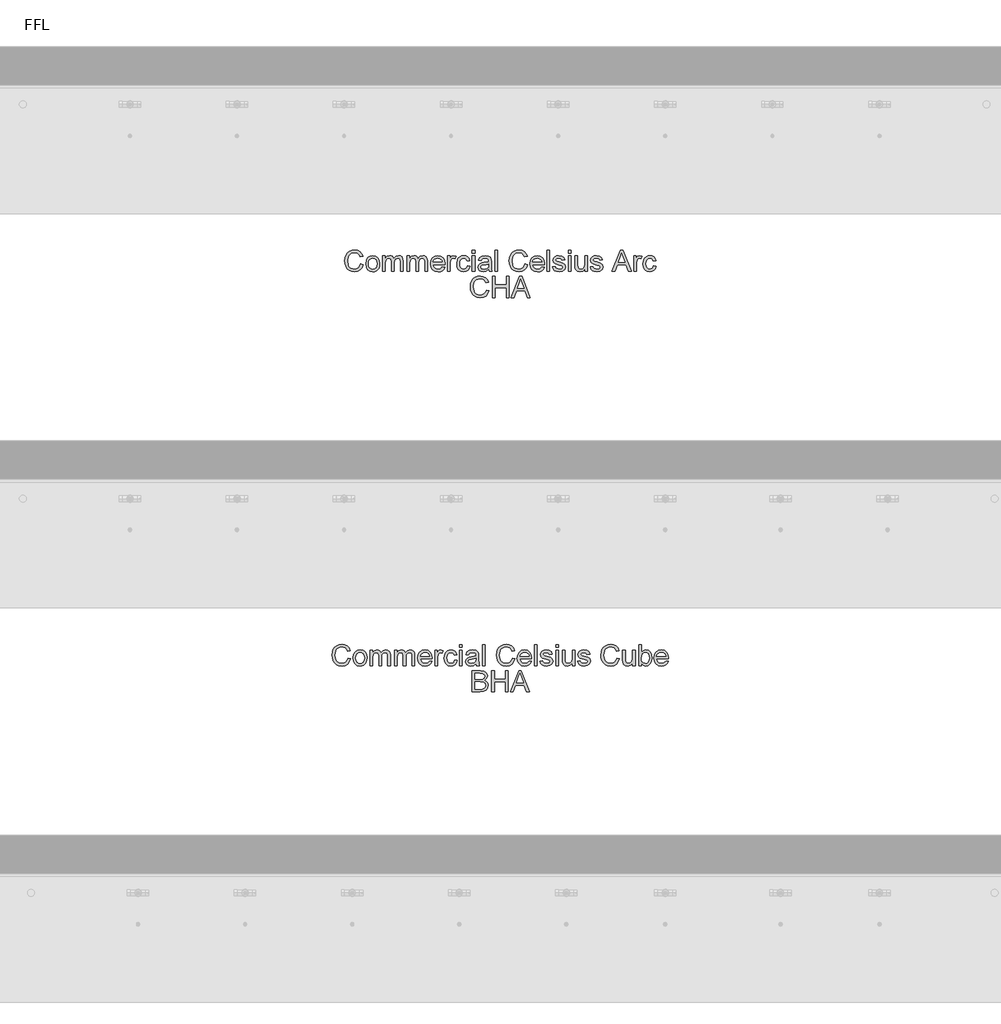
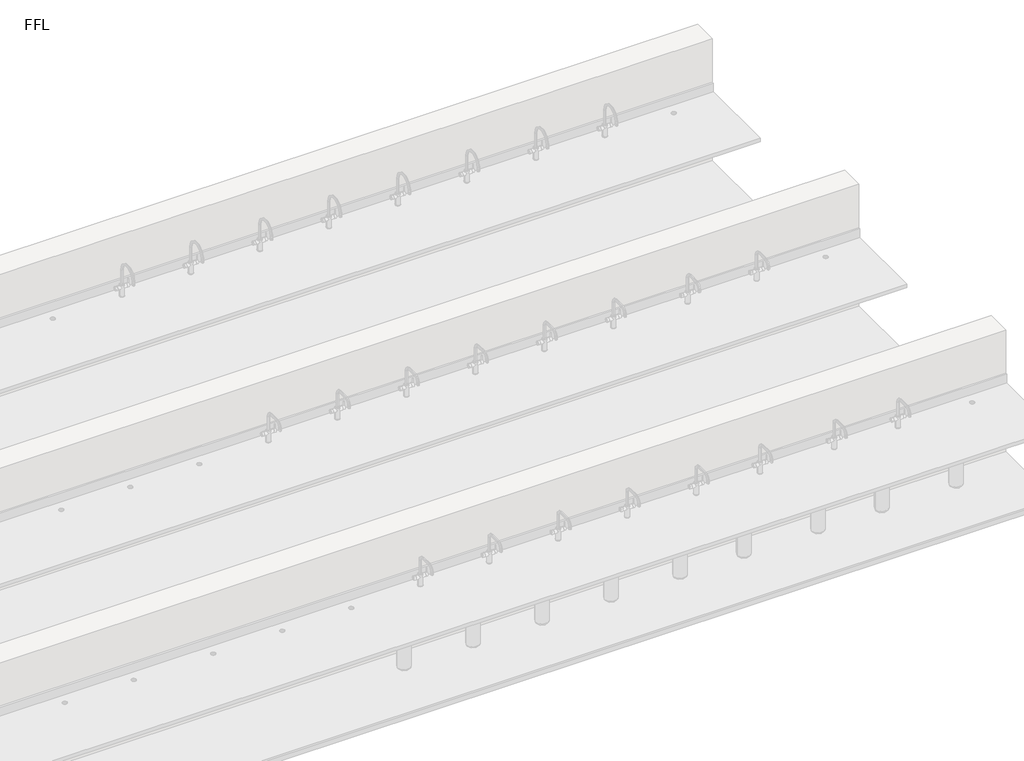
# One storey, part 9 of 10: 2 proxies.
"""IFC4 building model written with IfcOpenShell, lengths in millimetres."""

import ifcopenshell
import ifcopenshell.guid

model = None  # the IFC model being written
_history = None  # IfcOwnerHistory: only IFC2X3 demands one
_inside = {}  # id of a spatial element -> (the spatial element, [elements in it])
_under = {}  # id of a project, library or spatial element -> (it, [spatial elements below it])
_declared = {}  # id of a project -> (the project, [libraries it declares])
_typed = {}  # id of a type object -> (the type object, [elements of that type])
_made_of = {}  # id of a material, layer set ... -> (it, [elements and type objects made of it])


def new_model(schema):
    """Start an empty IFC model of exactly this schema.

    Asked for "IFC4X3", IfcOpenShell would pick the latest addendum, in which some entities
    have other attributes; the version numbers below select the first issue.
    IFC2X3 requires an IfcOwnerHistory on every rooted entity: one is made here for all.
    """
    global model, _history
    if schema == "IFC4X3":
        model = ifcopenshell.file(schema_version=(4, 3, 0, 0))
    else:
        model = ifcopenshell.file(schema=schema)
    _inside.clear()
    _under.clear()
    _declared.clear()
    _typed.clear()
    _made_of.clear()
    _history = None
    if model.schema == "IFC2X3":
        org = make("IfcOrganization", Name="unknown")
        user = make(
            "IfcPersonAndOrganization",
            ThePerson=make("IfcPerson", FamilyName="unknown"),
            TheOrganization=org,
        )
        app = make(
            "IfcApplication",
            ApplicationDeveloper=org,
            Version="unknown",
            ApplicationFullName="unknown",
            ApplicationIdentifier="unknown",
        )
        _history = make(
            "IfcOwnerHistory",
            OwningUser=user,
            OwningApplication=app,
            ChangeAction="ADDED",
            CreationDate=0,
        )
    return model


def make(cls, **values):
    """One entity of the class cls with the attributes given. An attribute that is None is left unset."""
    return model.create_entity(
        cls, **{name: value for name, value in values.items() if value is not None}
    )


def rooted(cls, **values):
    """An entity with a GlobalId (a new one), such as an element, a storey or a relation."""
    return make(cls, GlobalId=ifcopenshell.guid.new(), OwnerHistory=_history, **values)


def si_unit(unit_type, name, prefix=None):
    """IfcSIUnit, for example si_unit("LENGTHUNIT", "METRE", prefix="MILLI")."""
    return make("IfcSIUnit", UnitType=unit_type, Prefix=prefix, Name=name)


def assignment(units):
    """IfcUnitAssignment: the units of a project."""
    return None if units is None else make("IfcUnitAssignment", Units=units)


def point(xyz):
    """IfcCartesianPoint."""
    return None if xyz is None else make("IfcCartesianPoint", Coordinates=xyz)


def direction(xyz):
    """IfcDirection."""
    return None if xyz is None else make("IfcDirection", DirectionRatios=xyz)


def frame(location, z_axis=None, x_axis=None):
    """IfcAxis2Placement3D, a coordinate frame: its origin and axes. An axis left out is left unset."""
    return make(
        "IfcAxis2Placement3D",
        Location=point(location),
        Axis=direction(z_axis),
        RefDirection=direction(x_axis),
    )


def origin():
    """The frame at (0, 0, 0) with its axes left unset."""
    return frame((0.0, 0.0, 0.0))


def origin_with_axes():
    """The frame at (0, 0, 0) with the z axis (0, 0, 1) and the x axis (1, 0, 0) written out."""
    return frame((0.0, 0.0, 0.0), z_axis=(0.0, 0.0, 1.0), x_axis=(1.0, 0.0, 0.0))


def place(relative_to, where):
    """IfcLocalPlacement: puts the frame where relative to a parent placement (None: the world)."""
    return make(
        "IfcLocalPlacement", PlacementRelTo=relative_to, RelativePlacement=where
    )


def context(
    kind, dimensions, precision=None, world=None, true_north=None, identifier=None
):
    """IfcGeometricRepresentationContext, for example the 3D "Model" context."""
    return make(
        "IfcGeometricRepresentationContext",
        ContextIdentifier=identifier,
        ContextType=kind,
        CoordinateSpaceDimension=dimensions,
        Precision=precision,
        WorldCoordinateSystem=world,
        TrueNorth=true_north,
    )


def project(units=None, contexts=None):
    """IfcProject with its units and contexts."""
    return rooted(
        "IfcProject",
        Name="project",
        RepresentationContexts=contexts,
        UnitsInContext=assignment(units),
    )


def spatial(cls, under=None, at=None, **own):
    """A site, building, storey or space (cls), placed at a placement, below another one or the project."""
    s = rooted(cls, ObjectPlacement=at, **own)
    if under is not None:
        _under.setdefault(under.id(), (under, []))[1].append(s)
    return s


def polyline(points):
    """IfcPolyline through the points."""
    return make("IfcPolyline", Points=[point(p) for p in points])


def outline(outer, holes=None, kind="AREA"):
    """IfcArbitraryClosedProfileDef: a profile drawn as a closed curve; with holes, ...WithVoids."""
    if holes is None:
        return make("IfcArbitraryClosedProfileDef", ProfileType=kind, OuterCurve=outer)
    return make(
        "IfcArbitraryProfileDefWithVoids",
        ProfileType=kind,
        OuterCurve=outer,
        InnerCurves=holes,
    )


def extrude(swept, where, along, depth):
    """IfcExtrudedAreaSolid: the profile swept, set in the frame where, extruded along a direction by depth."""
    return make(
        "IfcExtrudedAreaSolid",
        SweptArea=swept,
        Position=where,
        ExtrudedDirection=direction(along),
        Depth=depth,
    )


def shape(context_of_items, identifier, shape_type, items):
    """IfcShapeRepresentation: the items that make up one representation, for example the "Body"."""
    return make(
        "IfcShapeRepresentation",
        ContextOfItems=context_of_items,
        RepresentationIdentifier=identifier,
        RepresentationType=shape_type,
        Items=items,
    )


def made_of(thing, what):
    """Note that an element or type object is made of a material, layer set ...; save() writes the relation."""
    if what is not None:
        _made_of.setdefault(what.id(), (what, []))[1].append(thing)
    return thing


def element(
    cls,
    number,
    at=None,
    inside=None,
    cuts=None,
    type_object=None,
    material=None,
    context=None,
    identifier="Body",
    shape_type=None,
    held_by="IfcProductDefinitionShape",
    body=None,
    shapes=None,
    **own,
):
    """One element of the class cls, such as IfcWall. Its Tag is "e" and its number.

    at: its placement. inside: the storey or other place that contains it. cuts: it is an
    opening in that element (IfcRelVoidsElement). A single representation is given by context,
    identifier, shape_type and body (its items); several are given by shapes. held_by: the class
    of the entity that holds the representations. save() writes the other relations.
    """
    e = rooted(cls, Tag="e%d" % number, ObjectPlacement=at, **own)
    if body is not None:
        shapes = [shape(context, identifier, shape_type, body)]
    if shapes is not None:
        e.Representation = make(held_by, Representations=shapes)
    if inside is not None:
        _inside.setdefault(inside.id(), (inside, []))[1].append(e)
    if cuts is not None:
        rooted(
            "IfcRelVoidsElement", RelatingBuildingElement=cuts, RelatedOpeningElement=e
        )
    if type_object is not None:
        _typed.setdefault(type_object.id(), (type_object, []))[1].append(e)
    return made_of(e, material)


def aggregate(whole, parts):
    """IfcRelAggregates: a whole, such as a stair, and the parts it consists of."""
    return rooted("IfcRelAggregates", RelatingObject=whole, RelatedObjects=parts)


def save(model, path):
    """Write the relations noted so far, then the file.

    IfcRelAggregates (storeys below a building ...), IfcRelContainedInSpatialStructure (elements
    in a storey), IfcRelDefinesByType, IfcRelAssociatesMaterial and IfcRelDeclares: one each for
    every whole, place, type object, material and project.
    """
    for whole, parts in _under.values():
        aggregate(whole, parts)
    for where, things in _inside.values():
        rooted(
            "IfcRelContainedInSpatialStructure",
            RelatedElements=things,
            RelatingStructure=where,
        )
    for kind, things in _typed.values():
        rooted("IfcRelDefinesByType", RelatedObjects=things, RelatingType=kind)
    for what, things in _made_of.values():
        rooted("IfcRelAssociatesMaterial", RelatedObjects=things, RelatingMaterial=what)
    for by, libraries in _declared.values():
        rooted("IfcRelDeclares", RelatingContext=by, RelatedDefinitions=libraries)
    model.write(path)


model = new_model("IFC4")

# Units and contexts
model_context = context("Model", 3, world=origin())
ifc_project = project(units=[si_unit("LENGTHUNIT", "METRE", prefix="MILLI")], contexts=[model_context])

# Site, building, storey
site = spatial("IfcSite", under=ifc_project)
building = spatial("IfcBuilding", under=site)
storey = spatial("IfcBuildingStorey", under=building, Name="FFL", Elevation=0.0)

# Proxies
placement = place(None, origin())
element("IfcBuildingElementProxy", 1, Name="150mm Arial", ObjectType="150mm Arial", at=placement, inside=storey, context=model_context, shape_type="SweptSolid", body=[
    extrude(outline(polyline([(6649.110861, 3836.3018309), (6667.5723994, 3831.5422155), (6659.0537696, 3810.0292948), (6645.6853802, 3794.3126482), (6628.1252841, 3784.698766), (6607.0315341, 3781.4941386), (6585.617772, 3783.9190184), (6568.6120629, 3791.1936578), (6555.5772071, 3803.065653), (6546.0760052, 3819.2826001), (6540.275224, 3838.3481049), (6538.3416302, 3858.7657732), (6540.5276278, 3880.3012299), (6547.0856206, 3898.8979847), (6557.6730605, 3913.9655929), (6571.9473994, 3924.9136097), (6588.876486, 3931.5797756), (6607.4281687, 3933.8018309), (6627.6700557, 3930.9262299), (6644.4053321, 3922.299427), (6657.1111615, 3908.4532732), (6665.2647071, 3889.9196193), (6646.8031687, 3885.5205809), (6640.4029283, 3898.9836217), (6631.6589379, 3908.2188982), (6620.4630244, 3913.5599439), (6606.7070148, 3915.3402924), (6590.8506446, 3913.3661338), (6577.8248033, 3907.4436578), (6567.9404884, 3898.1948597), (6561.5086975, 3886.2417347), (6556.8031687, 3858.8018309), (6562.3740821, 3826.9989463), (6569.4954764, 3815.1224439), (6579.7178321, 3806.6804367), (6591.9729403, 3801.6368669), (6605.1925917, 3799.955677), (6620.602748, 3802.2453405), (6633.4437937, 3809.1143309), (6643.1388057, 3820.4905328), (6649.110861, 3836.3018309)])), origin_with_axes(), (0.0, 0.0, 1.0), 5.0),
    extrude(outline(polyline([(6686.0339379, 3838.0326001), (6690.0273273, 3864.1834415), (6702.0074956, 3882.5638501), (6716.8091783, 3891.5692588), (6734.5315341, 3894.5710617), (6753.9260653, 3890.9157131), (6769.4173514, 3879.9496674), (6779.572099, 3862.5383092), (6782.9570148, 3839.5470232), (6781.4606206, 3820.8961818), (6776.9714379, 3806.6984655), (6769.6201759, 3796.0659535), (6759.5375437, 3788.1107251), (6747.5618826, 3783.1482852), (6734.5315341, 3781.4941386), (6714.9026278, 3785.1359655), (6699.4293706, 3796.0614463), (6689.3827961, 3813.8378886), (6686.0339379, 3838.0326001)]), holes=[polyline([(6704.4954764, 3838.0686578), (6706.6318946, 3821.3604246), (6713.0411494, 3809.456879), (6722.6865821, 3802.3309775), (6734.5315341, 3799.955677), (6746.3223994, 3802.3444992), (6755.9498033, 3809.5109655), (6762.3590581, 3821.5722636), (6764.4954764, 3838.6455809), (6762.3455365, 3854.8670352), (6755.8957167, 3866.6083213), (6746.2547913, 3873.7342227), (6734.5315341, 3876.1095232), (6722.6865821, 3873.7432371), (6713.0411494, 3866.644379), (6706.6318946, 3854.7678766), (6704.4954764, 3838.0686578)])]), origin_with_axes(), (0.0, 0.0, 1.0), 5.0),
    extrude(outline(polyline([(6803.7262456, 3783.8018309), (6803.7262456, 3892.2633693), (6822.1877841, 3892.2633693), (6822.1877841, 3874.4148117), (6834.8800917, 3889.0362059), (6852.9449956, 3894.5710617), (6863.2124235, 3893.1603044), (6871.4425917, 3888.9280328), (6881.610861, 3873.1167347), (6896.0159091, 3889.2074799), (6914.2070148, 3894.5710617), (6928.0847191, 3892.3399919), (6938.3476398, 3885.6467828), (6944.6892865, 3874.3111458), (6946.8031687, 3858.1527924), (6946.8031687, 3783.8018309), (6928.3416302, 3783.8018309), (6928.3416302, 3850.2201001), (6926.6288898, 3865.6347636), (6920.4269667, 3873.2249078), (6909.8800917, 3876.1095232), (6899.8785893, 3874.2615665), (6891.7250437, 3868.7176963), (6886.3028682, 3859.0993068), (6884.4954764, 3845.0277924), (6884.4954764, 3783.8018309), (6866.0339379, 3783.8018309), (6866.0339379, 3852.2753886), (6861.7611014, 3870.160004), (6856.1225797, 3874.6221434), (6847.7526879, 3876.1095232), (6834.0868225, 3872.143177), (6825.0002841, 3860.5326001), (6822.1877841, 3838.5013501), (6822.1877841, 3783.8018309), (6803.7262456, 3783.8018309)])), origin_with_axes(), (0.0, 0.0, 1.0), 5.0),
    extrude(outline(polyline([(6974.4954764, 3783.8018309), (6974.4954764, 3892.2633693), (6992.9570148, 3892.2633693), (6992.9570148, 3874.4148117), (7005.6493225, 3889.0362059), (7023.7142264, 3894.5710617), (7033.9816542, 3893.1603044), (7042.2118225, 3888.9280328), (7052.3800917, 3873.1167347), (7066.7851398, 3889.2074799), (7084.9762456, 3894.5710617), (7098.8539499, 3892.3399919), (7109.1168706, 3885.6467828), (7115.4585172, 3874.3111458), (7117.5723994, 3858.1527924), (7117.5723994, 3783.8018309), (7099.110861, 3783.8018309), (7099.110861, 3850.2201001), (7097.3981206, 3865.6347636), (7091.1961975, 3873.2249078), (7080.6493225, 3876.1095232), (7070.6478201, 3874.2615665), (7062.4942744, 3868.7176963), (7057.072099, 3859.0993068), (7055.2647071, 3845.0277924), (7055.2647071, 3783.8018309), (7036.8031687, 3783.8018309), (7036.8031687, 3852.2753886), (7032.5303321, 3870.160004), (7026.8918105, 3874.6221434), (7018.5219187, 3876.1095232), (7004.8560533, 3872.143177), (6995.7695148, 3860.5326001), (6992.9570148, 3838.5013501), (6992.9570148, 3783.8018309), (6974.4954764, 3783.8018309)])), origin_with_axes(), (0.0, 0.0, 1.0), 5.0),
    extrude(outline(polyline([(7221.2022071, 3816.1095232), (7239.3031687, 3813.8018309), (7232.7812336, 3800.1630088), (7222.3740821, 3789.9676963), (7208.3160893, 3783.612528), (7190.8416302, 3781.4941386), (7169.1799716, 3785.1494871), (7152.5123033, 3796.1155328), (7141.8842985, 3813.6801362), (7138.3416302, 3837.1311578), (7141.9203562, 3861.3709415), (7152.6565341, 3879.4989463), (7169.0988417, 3890.8030328), (7189.7959571, 3894.5710617), (7209.8485413, 3890.8120472), (7225.8716783, 3879.535004), (7236.3779884, 3861.4430568), (7239.8800917, 3837.2393309), (7239.7719187, 3832.2633693), (7156.8031687, 3832.2633693), (7159.9987816, 3818.4442588), (7167.4221591, 3808.285004), (7178.1358009, 3802.0380088), (7191.2022071, 3799.955677), (7209.3031687, 3803.8138501), (7221.2022071, 3816.1095232)]), holes=[polyline([(7156.8031687, 3850.7249078), (7221.4185533, 3850.7249078), (7218.9215581, 3860.4785136), (7214.0267264, 3867.455677), (7203.2635052, 3873.9460617), (7189.7238417, 3876.1095232), (7177.2794307, 3874.3832612), (7166.9894667, 3869.2044751), (7159.836522, 3861.1320592), (7156.8031687, 3850.7249078)])]), origin_with_axes(), (0.0, 0.0, 1.0), 5.0),
    extrude(outline(polyline([(7258.3416302, 3783.8018309), (7258.3416302, 3892.2633693), (7274.4954764, 3892.2633693), (7274.4954764, 3876.2176963), (7285.9618225, 3891.0013501), (7297.5002841, 3894.5710617), (7316.0339379, 3888.8739463), (7309.8680725, 3872.3234655), (7296.8873033, 3876.1095232), (7286.4486014, 3872.4676963), (7279.7959571, 3862.3715424), (7276.8031687, 3840.8090424), (7276.8031687, 3783.8018309), (7258.3416302, 3783.8018309)])), origin_with_axes(), (0.0, 0.0, 1.0), 5.0),
    extrude(outline(polyline([(7396.8031687, 3823.0326001), (7415.2647071, 3820.7249078), (7410.1174716, 3804.3051362), (7400.4449956, 3791.8967828), (7387.157736, 3784.0947996), (7371.1661494, 3781.4941386), (7351.5282288, 3785.1224439), (7336.1721591, 3796.0073597), (7326.2608009, 3813.6711217), (7322.9570148, 3837.6359655), (7328.6000437, 3868.3030328), (7335.7214379, 3879.8009294), (7345.7995629, 3888.0085617), (7357.8563538, 3892.9304367), (7370.9137456, 3894.5710617), (7386.5132047, 3892.3174559), (7398.9846591, 3885.5566386), (7407.931474, 3874.6491867), (7412.9570148, 3859.955677), (7394.4954764, 3857.6479847), (7385.9317744, 3871.4761097), (7371.0579764, 3876.1095232), (7359.1273874, 3873.8288742), (7349.657736, 3866.986927), (7343.478349, 3855.2140905), (7341.4185533, 3838.1407732), (7343.4332768, 3820.8375881), (7349.4774475, 3809.0241867), (7358.7758249, 3802.2228044), (7370.5531687, 3799.955677), (7380.1129643, 3801.3709415), (7387.9510052, 3805.6167347), (7393.6526278, 3812.8012299), (7396.8031687, 3823.0326001)])), origin_with_axes(), (0.0, 0.0, 1.0), 5.0),
    extrude(outline(polyline([(7431.4185533, 3913.0326001), (7431.4185533, 3931.4941386), (7449.8800917, 3931.4941386), (7449.8800917, 3913.0326001), (7431.4185533, 3913.0326001)])), origin_with_axes(), (0.0, 0.0, 1.0), 5.0),
    extrude(outline(polyline([(7431.4185533, 3783.8018309), (7431.4185533, 3892.2633693), (7449.8800917, 3892.2633693), (7449.8800917, 3783.8018309), (7431.4185533, 3783.8018309)])), origin_with_axes(), (0.0, 0.0, 1.0), 5.0),
    extrude(outline(polyline([(7546.8031687, 3797.6479847), (7528.9005244, 3785.1359655), (7509.1228802, 3781.4941386), (7493.6946951, 3783.6846434), (7482.313986, 3790.2561578), (7475.2962576, 3800.2351242), (7472.9570148, 3812.6479847), (7476.4906687, 3827.2513501), (7485.7755244, 3837.8523117), (7498.7022071, 3843.910004), (7514.6757648, 3846.6864463), (7546.6949956, 3853.0326001), (7546.8031687, 3857.143177), (7545.532135, 3865.3823597), (7541.7190341, 3870.7729847), (7533.1913898, 3874.7753886), (7521.3103802, 3876.1095232), (7502.6324956, 3872.5578405), (7493.7262456, 3859.955677), (7475.2647071, 3862.2633693), (7483.251486, 3880.2922155), (7499.3332167, 3890.8571193), (7523.6901879, 3894.5710617), (7546.063986, 3891.2898117), (7558.7022071, 3883.050629), (7564.3632648, 3870.5205809), (7565.2647071, 3854.3667347), (7565.2647071, 3831.3979847), (7566.2022071, 3799.3246674), (7569.8800917, 3783.8018309), (7551.4185533, 3783.8018309), (7546.8031687, 3797.6479847)]), holes=[polyline([(7546.8031687, 3834.5710617), (7517.0195148, 3828.910004), (7501.1361014, 3825.9172155), (7493.9425917, 3821.049427), (7491.4185533, 3813.9460617), (7496.9173514, 3803.9580809), (7513.0531687, 3799.955677), (7531.7310533, 3804.3727443), (7543.7743225, 3815.0638501), (7546.6949956, 3829.3426963), (7546.8031687, 3834.5710617)])]), origin_with_axes(), (0.0, 0.0, 1.0), 5.0),
    extrude(outline(polyline([(7590.6493225, 3783.8018309), (7590.6493225, 3931.4941386), (7609.110861, 3931.4941386), (7609.110861, 3783.8018309), (7590.6493225, 3783.8018309)])), origin_with_axes(), (0.0, 0.0, 1.0), 5.0),
    extrude(outline(polyline([(7800.6493225, 3836.3018309), (7819.110861, 3831.5422155), (7810.5922312, 3810.0292948), (7797.2238417, 3794.3126482), (7779.6637456, 3784.698766), (7758.5699956, 3781.4941386), (7737.1562336, 3783.9190184), (7720.1505244, 3791.1936578), (7707.1156687, 3803.065653), (7697.6144667, 3819.2826001), (7691.8136855, 3838.3481049), (7689.8800917, 3858.7657732), (7692.0660893, 3880.3012299), (7698.6240821, 3898.8979847), (7709.211522, 3913.9655929), (7723.485861, 3924.9136097), (7740.4149475, 3931.5797756), (7758.9666302, 3933.8018309), (7779.2085172, 3930.9262299), (7795.9437937, 3922.299427), (7808.649623, 3908.4532732), (7816.8031687, 3889.9196193), (7798.3416302, 3885.5205809), (7791.9413898, 3898.9836217), (7783.1973994, 3908.2188982), (7772.001486, 3913.5599439), (7758.2454764, 3915.3402924), (7742.3891062, 3913.3661338), (7729.3632648, 3907.4436578), (7719.4789499, 3898.1948597), (7713.0471591, 3886.2417347), (7708.3416302, 3858.8018309), (7713.9125437, 3826.9989463), (7721.0339379, 3815.1224439), (7731.2562937, 3806.6804367), (7743.5114018, 3801.6368669), (7756.7310533, 3799.955677), (7772.1412095, 3802.2453405), (7784.9822552, 3809.1143309), (7794.6772672, 3820.4905328), (7800.6493225, 3836.3018309)])), origin_with_axes(), (0.0, 0.0, 1.0), 5.0),
    extrude(outline(polyline([(7918.1252841, 3816.1095232), (7936.2262456, 3813.8018309), (7929.7043105, 3800.1630088), (7919.2971591, 3789.9676963), (7905.2391663, 3783.612528), (7887.7647071, 3781.4941386), (7866.1030485, 3785.1494871), (7849.4353802, 3796.1155328), (7838.8073754, 3813.6801362), (7835.2647071, 3837.1311578), (7838.8434331, 3861.3709415), (7849.579611, 3879.4989463), (7866.0219187, 3890.8030328), (7886.7190341, 3894.5710617), (7906.7716182, 3890.8120472), (7922.7947552, 3879.535004), (7933.3010653, 3861.4430568), (7936.8031687, 3837.2393309), (7936.6949956, 3832.2633693), (7853.7262456, 3832.2633693), (7856.9218586, 3818.4442588), (7864.345236, 3808.285004), (7875.0588778, 3802.0380088), (7888.1252841, 3799.955677), (7906.2262456, 3803.8138501), (7918.1252841, 3816.1095232)]), holes=[polyline([(7853.7262456, 3850.7249078), (7918.3416302, 3850.7249078), (7915.844635, 3860.4785136), (7910.9498033, 3867.455677), (7900.1865821, 3873.9460617), (7886.6469187, 3876.1095232), (7874.2025076, 3874.3832612), (7863.9125437, 3869.2044751), (7856.759599, 3861.1320592), (7853.7262456, 3850.7249078)])]), origin_with_axes(), (0.0, 0.0, 1.0), 5.0),
    extrude(outline(polyline([(7955.2647071, 3783.8018309), (7955.2647071, 3931.4941386), (7973.7262456, 3931.4941386), (7973.7262456, 3783.8018309), (7955.2647071, 3783.8018309)])), origin_with_axes(), (0.0, 0.0, 1.0), 5.0),
    extrude(outline(polyline([(7994.4954764, 3816.1095232), (8012.9570148, 3818.4172155), (8015.8686735, 3810.5205809), (8021.5026879, 3804.7152924), (8041.0820148, 3799.955677), (8059.9041302, 3804.3186578), (8066.0339379, 3814.5590424), (8059.8680725, 3822.8523117), (8040.8656687, 3828.1167347), (8013.0651879, 3837.1491867), (8000.9317744, 3847.6960617), (7996.8031687, 3862.5878886), (8000.1204764, 3876.3438982), (8009.1709571, 3886.8547155), (8020.907736, 3892.3174559), (8036.7911494, 3894.5710617), (8059.2550917, 3890.9472636), (8073.5339379, 3881.1395713), (8079.8800917, 3864.5710617), (8061.4185533, 3862.2633693), (8054.4774475, 3872.4496674), (8038.2334571, 3876.1095232), (8020.5651879, 3872.611927), (8015.2647071, 3864.4628886), (8017.4642264, 3859.0902924), (8024.3512456, 3855.0157732), (8040.2526879, 3851.0854847), (8067.3500437, 3842.3955809), (8079.9341783, 3832.5518309), (8084.4954764, 3816.5061578), (8079.1409091, 3798.8378886), (8063.6901879, 3786.019379), (8040.829611, 3781.4941386), (8022.2148273, 3783.675629), (8008.6300917, 3790.2201001), (7999.5615821, 3801.0554367), (7994.4954764, 3816.1095232)])), origin_with_axes(), (0.0, 0.0, 1.0), 5.0),
    extrude(outline(polyline([(8105.2647071, 3783.8018309), (8105.2647071, 3892.2633693), (8123.7262456, 3892.2633693), (8123.7262456, 3783.8018309), (8105.2647071, 3783.8018309)])), origin_with_axes(), (0.0, 0.0, 1.0), 5.0),
    extrude(outline(polyline([(8105.2647071, 3913.0326001), (8105.2647071, 3931.4941386), (8123.7262456, 3931.4941386), (8123.7262456, 3913.0326001), (8105.2647071, 3913.0326001)])), origin_with_axes(), (0.0, 0.0, 1.0), 5.0),
    extrude(outline(polyline([(8220.6493225, 3783.8018309), (8220.6493225, 3802.4436578), (8206.1901879, 3786.7315184), (8187.3320148, 3781.4941386), (8169.970236, 3785.1720232), (8157.9990821, 3794.4027924), (8152.5002841, 3807.9965424), (8151.4185533, 3825.160004), (8151.4185533, 3892.2633693), (8169.8800917, 3892.2633693), (8169.8800917, 3833.8499078), (8170.9978802, 3815.0277924), (8178.2995629, 3803.9761097), (8192.0555725, 3799.955677), (8207.470236, 3804.066254), (8217.6565341, 3815.2621674), (8220.6493225, 3835.8330809), (8220.6493225, 3892.2633693), (8239.110861, 3892.2633693), (8239.110861, 3783.8018309), (8220.6493225, 3783.8018309)])), origin_with_axes(), (0.0, 0.0, 1.0), 5.0),
    extrude(outline(polyline([(8257.5723994, 3816.1095232), (8276.0339379, 3818.4172155), (8278.9455966, 3810.5205809), (8284.579611, 3804.7152924), (8304.1589379, 3799.955677), (8322.9810533, 3804.3186578), (8329.110861, 3814.5590424), (8322.9449956, 3822.8523117), (8303.9425917, 3828.1167347), (8276.142111, 3837.1491867), (8264.0086975, 3847.6960617), (8259.8800917, 3862.5878886), (8263.1973994, 3876.3438982), (8272.2478802, 3886.8547155), (8283.9846591, 3892.3174559), (8299.8680725, 3894.5710617), (8322.3320148, 3890.9472636), (8336.610861, 3881.1395713), (8342.9570148, 3864.5710617), (8324.4954764, 3862.2633693), (8317.5543706, 3872.4496674), (8301.3103802, 3876.1095232), (8283.642111, 3872.611927), (8278.3416302, 3864.4628886), (8280.5411494, 3859.0902924), (8287.4281687, 3855.0157732), (8303.329611, 3851.0854847), (8330.4269667, 3842.3955809), (8343.0111014, 3832.5518309), (8347.5723994, 3816.5061578), (8342.2178321, 3798.8378886), (8326.767111, 3786.019379), (8303.9065341, 3781.4941386), (8285.2917504, 3783.675629), (8271.7070148, 3790.2201001), (8262.6385052, 3801.0554367), (8257.5723994, 3816.1095232)])), origin_with_axes(), (0.0, 0.0, 1.0), 5.0),
    extrude(outline(polyline([(8411.142111, 3783.8018309), (8470.0964379, 3931.4941386), (8485.8175917, 3931.4941386), (8544.7719187, 3783.8018309), (8525.2647071, 3783.8018309), (8508.3536494, 3829.955677), (8447.5243225, 3829.955677), (8430.6493225, 3783.8018309), (8411.142111, 3783.8018309)]), holes=[polyline([(8454.3031687, 3848.4172155), (8501.610861, 3848.4172155), (8488.3055725, 3884.7273117), (8477.9570148, 3913.0326001), (8468.7623033, 3887.9003886), (8454.3031687, 3848.4172155)])]), origin_with_axes(), (0.0, 0.0, 1.0), 5.0),
    extrude(outline(polyline([(8562.1877841, 3783.8018309), (8562.1877841, 3892.2633693), (8578.3416302, 3892.2633693), (8578.3416302, 3876.2176963), (8589.8079764, 3891.0013501), (8601.3464379, 3894.5710617), (8619.8800917, 3888.8739463), (8613.7142264, 3872.3234655), (8600.7334571, 3876.1095232), (8590.2947552, 3872.4676963), (8583.642111, 3862.3715424), (8580.6493225, 3840.8090424), (8580.6493225, 3783.8018309), (8562.1877841, 3783.8018309)])), origin_with_axes(), (0.0, 0.0, 1.0), 5.0),
    extrude(outline(polyline([(8700.6493225, 3823.0326001), (8719.110861, 3820.7249078), (8713.9636254, 3804.3051362), (8704.2911494, 3791.8967828), (8691.0038898, 3784.0947996), (8675.0123033, 3781.4941386), (8655.3743826, 3785.1224439), (8640.0183129, 3796.0073597), (8630.1069547, 3813.6711217), (8626.8031687, 3837.6359655), (8632.4461975, 3868.3030328), (8639.5675917, 3879.8009294), (8649.6457167, 3888.0085617), (8661.7025076, 3892.9304367), (8674.7598994, 3894.5710617), (8690.3593586, 3892.3174559), (8702.8308129, 3885.5566386), (8711.7776278, 3874.6491867), (8716.8031687, 3859.955677), (8698.3416302, 3857.6479847), (8689.7779283, 3871.4761097), (8674.9041302, 3876.1095232), (8662.9735413, 3873.8288742), (8653.5038898, 3866.986927), (8647.3245028, 3855.2140905), (8645.2647071, 3838.1407732), (8647.2794307, 3820.8375881), (8653.3236014, 3809.0241867), (8662.6219788, 3802.2228044), (8674.3993225, 3799.955677), (8683.9591182, 3801.3709415), (8691.7971591, 3805.6167347), (8697.4987816, 3812.8012299), (8700.6493225, 3823.0326001)])), origin_with_axes(), (0.0, 0.0, 1.0), 5.0),
    extrude(outline(polyline([(7529.4954764, 3653.9941386), (7547.9570148, 3649.2345232), (7539.438385, 3627.7216025), (7526.0699956, 3612.0049559), (7508.5098994, 3602.3910737), (7487.4161494, 3599.1864463), (7466.0023874, 3601.6113261), (7448.9966783, 3608.8859655), (7435.9618225, 3620.7579607), (7426.4606206, 3636.9749078), (7420.6598393, 3656.0404126), (7418.7262456, 3676.4580809), (7420.9122432, 3697.9935376), (7427.470236, 3716.5902924), (7438.0576759, 3731.6579006), (7452.3320148, 3742.6059174), (7469.2611014, 3749.2720833), (7487.8127841, 3751.4941386), (7508.0546711, 3748.6185376), (7524.7899475, 3739.9917347), (7537.4957768, 3726.1455809), (7545.6493225, 3707.611927), (7527.1877841, 3703.2128886), (7520.7875437, 3716.6759294), (7512.0435533, 3725.9112059), (7500.8476398, 3731.2522516), (7487.0916302, 3733.0326001), (7471.23526, 3731.0584415), (7458.2094187, 3725.1359655), (7448.3251038, 3715.8871674), (7441.8933129, 3703.9340424), (7437.1877841, 3676.4941386), (7442.7586975, 3644.691254), (7449.8800917, 3632.8147516), (7460.1024475, 3624.3727443), (7472.3575557, 3619.3291746), (7485.5772071, 3617.6479847), (7500.9873634, 3619.9376482), (7513.8284091, 3626.8066386), (7523.5234211, 3638.1828405), (7529.4954764, 3653.9941386)])), origin_with_axes(), (0.0, 0.0, 1.0), 5.0),
    extrude(outline(polyline([(7573.3416302, 3601.4941386), (7573.3416302, 3749.1864463), (7591.8031687, 3749.1864463), (7591.8031687, 3689.1864463), (7670.2647071, 3689.1864463), (7670.2647071, 3749.1864463), (7688.7262456, 3749.1864463), (7688.7262456, 3601.4941386), (7670.2647071, 3601.4941386), (7670.2647071, 3670.7249078), (7591.8031687, 3670.7249078), (7591.8031687, 3601.4941386), (7573.3416302, 3601.4941386)])), origin_with_axes(), (0.0, 0.0, 1.0), 5.0),
    extrude(outline(polyline([(7703.8344187, 3601.4941386), (7762.7887456, 3749.1864463), (7778.5098994, 3749.1864463), (7837.4642264, 3601.4941386), (7817.9570148, 3601.4941386), (7801.0459571, 3647.6479847), (7740.2166302, 3647.6479847), (7723.3416302, 3601.4941386), (7703.8344187, 3601.4941386)]), holes=[polyline([(7746.9954764, 3666.1095232), (7794.3031687, 3666.1095232), (7780.9978802, 3702.4196193), (7770.6493225, 3730.7249078), (7761.454611, 3705.5926963), (7746.9954764, 3666.1095232)])]), origin_with_axes(), (0.0, 0.0, 1.0), 5.0),
])
element("IfcBuildingElementProxy", 2, Name="150mm Arial", ObjectType="150mm Arial", at=placement, inside=storey, context=model_context, shape_type="SweptSolid", body=[
    extrude(outline(polyline([(6560.2647071, 1076.3018309), (6578.7262456, 1071.5422155), (6570.2076158, 1050.0292948), (6556.8392264, 1034.3126482), (6539.2791302, 1024.698766), (6518.1853802, 1021.4941386), (6496.7716182, 1023.9190184), (6479.7659091, 1031.1936578), (6466.7310533, 1043.065653), (6457.2298514, 1059.2826001), (6451.4290701, 1078.3481049), (6449.4954764, 1098.7657732), (6451.681474, 1120.3012299), (6458.2394667, 1138.8979847), (6468.8269066, 1153.9655929), (6483.1012456, 1164.9136097), (6500.0303321, 1171.5797756), (6518.5820148, 1173.8018309), (6538.8239018, 1170.9262299), (6555.5591783, 1162.299427), (6568.2650076, 1148.4532732), (6576.4185533, 1129.9196193), (6557.9570148, 1125.5205809), (6551.5567744, 1138.9836217), (6542.8127841, 1148.2188982), (6531.6168706, 1153.5599439), (6517.860861, 1155.3402924), (6502.0044908, 1153.3661338), (6488.9786494, 1147.4436578), (6479.0943345, 1138.1948597), (6472.6625437, 1126.2417347), (6467.9570148, 1098.8018309), (6473.5279283, 1066.9989463), (6480.6493225, 1055.1224439), (6490.8716783, 1046.6804367), (6503.1267865, 1041.6368669), (6516.3464379, 1039.955677), (6531.7565941, 1042.2453405), (6544.5976398, 1049.1143309), (6554.2926518, 1060.4905328), (6560.2647071, 1076.3018309)])), origin_with_axes(), (0.0, 0.0, 1.0), 5.0),
    extrude(outline(polyline([(6597.1877841, 1078.0326001), (6601.1811735, 1104.1834415), (6613.1613417, 1122.5638501), (6627.9630244, 1131.5692588), (6645.6853802, 1134.5710617), (6665.0799115, 1130.9157131), (6680.5711975, 1119.9496674), (6690.7259451, 1102.5383092), (6694.110861, 1079.5470232), (6692.6144667, 1060.8961818), (6688.1252841, 1046.6984655), (6680.774022, 1036.0659535), (6670.6913898, 1028.1107251), (6658.7157288, 1023.1482852), (6645.6853802, 1021.4941386), (6626.056474, 1025.1359655), (6610.5832167, 1036.0614463), (6600.5366422, 1053.8378886), (6597.1877841, 1078.0326001)]), holes=[polyline([(6615.6493225, 1078.0686578), (6617.7857408, 1061.3604246), (6624.1949956, 1049.456879), (6633.8404283, 1042.3309775), (6645.6853802, 1039.955677), (6657.4762456, 1042.3444992), (6667.1036494, 1049.5109655), (6673.5129042, 1061.5722636), (6675.6493225, 1078.6455809), (6673.4993826, 1094.8670352), (6667.0495629, 1106.6083213), (6657.4086374, 1113.7342227), (6645.6853802, 1116.1095232), (6633.8404283, 1113.7432371), (6624.1949956, 1106.644379), (6617.7857408, 1094.7678766), (6615.6493225, 1078.0686578)])]), origin_with_axes(), (0.0, 0.0, 1.0), 5.0),
    extrude(outline(polyline([(6714.8800917, 1023.8018309), (6714.8800917, 1132.2633693), (6733.3416302, 1132.2633693), (6733.3416302, 1114.4148117), (6746.0339379, 1129.0362059), (6764.0988417, 1134.5710617), (6774.3662696, 1133.1603044), (6782.5964379, 1128.9280328), (6792.7647071, 1113.1167347), (6807.1697552, 1129.2074799), (6825.360861, 1134.5710617), (6839.2385653, 1132.3399919), (6849.501486, 1125.6467828), (6855.8431326, 1114.3111458), (6857.9570148, 1098.1527924), (6857.9570148, 1023.8018309), (6839.4954764, 1023.8018309), (6839.4954764, 1090.2201001), (6837.782736, 1105.6347636), (6831.5808129, 1113.2249078), (6821.0339379, 1116.1095232), (6811.0324355, 1114.2615665), (6802.8788898, 1108.7176963), (6797.4567143, 1099.0993068), (6795.6493225, 1085.0277924), (6795.6493225, 1023.8018309), (6777.1877841, 1023.8018309), (6777.1877841, 1092.2753886), (6772.9149475, 1110.160004), (6767.2764259, 1114.6221434), (6758.9065341, 1116.1095232), (6745.2406687, 1112.143177), (6736.1541302, 1100.5326001), (6733.3416302, 1078.5013501), (6733.3416302, 1023.8018309), (6714.8800917, 1023.8018309)])), origin_with_axes(), (0.0, 0.0, 1.0), 5.0),
    extrude(outline(polyline([(6885.6493225, 1023.8018309), (6885.6493225, 1132.2633693), (6904.110861, 1132.2633693), (6904.110861, 1114.4148117), (6916.8031687, 1129.0362059), (6934.8680725, 1134.5710617), (6945.1355004, 1133.1603044), (6953.3656687, 1128.9280328), (6963.5339379, 1113.1167347), (6977.938986, 1129.2074799), (6996.1300917, 1134.5710617), (7010.0077961, 1132.3399919), (7020.2707167, 1125.6467828), (7026.6123634, 1114.3111458), (7028.7262456, 1098.1527924), (7028.7262456, 1023.8018309), (7010.2647071, 1023.8018309), (7010.2647071, 1090.2201001), (7008.5519667, 1105.6347636), (7002.3500437, 1113.2249078), (6991.8031687, 1116.1095232), (6981.8016663, 1114.2615665), (6973.6481206, 1108.7176963), (6968.2259451, 1099.0993068), (6966.4185533, 1085.0277924), (6966.4185533, 1023.8018309), (6947.9570148, 1023.8018309), (6947.9570148, 1092.2753886), (6943.6841783, 1110.160004), (6938.0456566, 1114.6221434), (6929.6757648, 1116.1095232), (6916.0098994, 1112.143177), (6906.923361, 1100.5326001), (6904.110861, 1078.5013501), (6904.110861, 1023.8018309), (6885.6493225, 1023.8018309)])), origin_with_axes(), (0.0, 0.0, 1.0), 5.0),
    extrude(outline(polyline([(7132.3560533, 1056.1095232), (7150.4570148, 1053.8018309), (7143.9350797, 1040.1630088), (7133.5279283, 1029.9676963), (7119.4699355, 1023.612528), (7101.9954764, 1021.4941386), (7080.3338177, 1025.1494871), (7063.6661494, 1036.1155328), (7053.0381446, 1053.6801362), (7049.4954764, 1077.1311578), (7053.0742023, 1101.3709415), (7063.8103802, 1119.4989463), (7080.2526879, 1130.8030328), (7100.9498033, 1134.5710617), (7121.0023874, 1130.8120472), (7137.0255244, 1119.535004), (7147.5318345, 1101.4430568), (7151.0339379, 1077.2393309), (7150.9257648, 1072.2633693), (7067.9570148, 1072.2633693), (7071.1526278, 1058.4442588), (7078.5760052, 1048.285004), (7089.289647, 1042.0380088), (7102.3560533, 1039.955677), (7120.4570148, 1043.8138501), (7132.3560533, 1056.1095232)]), holes=[polyline([(7067.9570148, 1090.7249078), (7132.5723994, 1090.7249078), (7130.0754042, 1100.4785136), (7125.1805725, 1107.455677), (7114.4173514, 1113.9460617), (7100.8776879, 1116.1095232), (7088.4332768, 1114.3832612), (7078.1433129, 1109.2044751), (7070.9903682, 1101.1320592), (7067.9570148, 1090.7249078)])]), origin_with_axes(), (0.0, 0.0, 1.0), 5.0),
    extrude(outline(polyline([(7169.4954764, 1023.8018309), (7169.4954764, 1132.2633693), (7185.6493225, 1132.2633693), (7185.6493225, 1116.2176963), (7197.1156687, 1131.0013501), (7208.6541302, 1134.5710617), (7227.1877841, 1128.8739463), (7221.0219187, 1112.3234655), (7208.0411494, 1116.1095232), (7197.6024475, 1112.4676963), (7190.9498033, 1102.3715424), (7187.9570148, 1080.8090424), (7187.9570148, 1023.8018309), (7169.4954764, 1023.8018309)])), origin_with_axes(), (0.0, 0.0, 1.0), 5.0),
    extrude(outline(polyline([(7307.9570148, 1063.0326001), (7326.4185533, 1060.7249078), (7321.2713177, 1044.3051362), (7311.5988417, 1031.8967828), (7298.3115821, 1024.0947996), (7282.3199956, 1021.4941386), (7262.6820749, 1025.1224439), (7247.3260052, 1036.0073597), (7237.414647, 1053.6711217), (7234.110861, 1077.6359655), (7239.7538898, 1108.3030328), (7246.8752841, 1119.8009294), (7256.9534091, 1128.0085617), (7269.0101999, 1132.9304367), (7282.0675917, 1134.5710617), (7297.6670509, 1132.3174559), (7310.1385052, 1125.5566386), (7319.0853201, 1114.6491867), (7324.110861, 1099.955677), (7305.6493225, 1097.6479847), (7297.0856206, 1111.4761097), (7282.2118225, 1116.1095232), (7270.2812336, 1113.8288742), (7260.8115821, 1106.986927), (7254.6321951, 1095.2140905), (7252.5723994, 1078.1407732), (7254.587123, 1060.8375881), (7260.6312937, 1049.0241867), (7269.9296711, 1042.2228044), (7281.7070148, 1039.955677), (7291.2668105, 1041.3709415), (7299.1048514, 1045.6167347), (7304.806474, 1052.8012299), (7307.9570148, 1063.0326001)])), origin_with_axes(), (0.0, 0.0, 1.0), 5.0),
    extrude(outline(polyline([(7342.5723994, 1153.0326001), (7342.5723994, 1171.4941386), (7361.0339379, 1171.4941386), (7361.0339379, 1153.0326001), (7342.5723994, 1153.0326001)])), origin_with_axes(), (0.0, 0.0, 1.0), 5.0),
    extrude(outline(polyline([(7342.5723994, 1023.8018309), (7342.5723994, 1132.2633693), (7361.0339379, 1132.2633693), (7361.0339379, 1023.8018309), (7342.5723994, 1023.8018309)])), origin_with_axes(), (0.0, 0.0, 1.0), 5.0),
    extrude(outline(polyline([(7457.9570148, 1037.6479847), (7440.0543706, 1025.1359655), (7420.2767264, 1021.4941386), (7404.8485413, 1023.6846434), (7393.4678321, 1030.2561578), (7386.4501038, 1040.2351242), (7384.110861, 1052.6479847), (7387.6445148, 1067.2513501), (7396.9293706, 1077.8523117), (7409.8560533, 1083.910004), (7425.829611, 1086.6864463), (7457.8488417, 1093.0326001), (7457.9570148, 1097.143177), (7456.6859812, 1105.3823597), (7452.8728802, 1110.7729847), (7444.345236, 1114.7753886), (7432.4642264, 1116.1095232), (7413.7863417, 1112.5578405), (7404.8800917, 1099.955677), (7386.4185533, 1102.2633693), (7394.4053321, 1120.2922155), (7410.4870629, 1130.8571193), (7434.8440341, 1134.5710617), (7457.2178321, 1131.2898117), (7469.8560533, 1123.050629), (7475.517111, 1110.5205809), (7476.4185533, 1094.3667347), (7476.4185533, 1071.3979847), (7477.3560533, 1039.3246674), (7481.0339379, 1023.8018309), (7462.5723994, 1023.8018309), (7457.9570148, 1037.6479847)]), holes=[polyline([(7457.9570148, 1074.5710617), (7428.173361, 1068.910004), (7412.2899475, 1065.9172155), (7405.0964379, 1061.049427), (7402.5723994, 1053.9460617), (7408.0711975, 1043.9580809), (7424.2070148, 1039.955677), (7442.8848994, 1044.3727443), (7454.9281687, 1055.0638501), (7457.8488417, 1069.3426963), (7457.9570148, 1074.5710617)])]), origin_with_axes(), (0.0, 0.0, 1.0), 5.0),
    extrude(outline(polyline([(7501.8031687, 1023.8018309), (7501.8031687, 1171.4941386), (7520.2647071, 1171.4941386), (7520.2647071, 1023.8018309), (7501.8031687, 1023.8018309)])), origin_with_axes(), (0.0, 0.0, 1.0), 5.0),
    extrude(outline(polyline([(7711.8031687, 1076.3018309), (7730.2647071, 1071.5422155), (7721.7460773, 1050.0292948), (7708.3776879, 1034.3126482), (7690.8175917, 1024.698766), (7669.7238417, 1021.4941386), (7648.3100797, 1023.9190184), (7631.3043706, 1031.1936578), (7618.2695148, 1043.065653), (7608.7683129, 1059.2826001), (7602.9675316, 1078.3481049), (7601.0339379, 1098.7657732), (7603.2199355, 1120.3012299), (7609.7779283, 1138.8979847), (7620.3653682, 1153.9655929), (7634.6397071, 1164.9136097), (7651.5687937, 1171.5797756), (7670.1204764, 1173.8018309), (7690.3623634, 1170.9262299), (7707.0976398, 1162.299427), (7719.8034691, 1148.4532732), (7727.9570148, 1129.9196193), (7709.4954764, 1125.5205809), (7703.095236, 1138.9836217), (7694.3512456, 1148.2188982), (7683.1553321, 1153.5599439), (7669.3993225, 1155.3402924), (7653.5429523, 1153.3661338), (7640.517111, 1147.4436578), (7630.6327961, 1138.1948597), (7624.2010052, 1126.2417347), (7619.4954764, 1098.8018309), (7625.0663898, 1066.9989463), (7632.1877841, 1055.1224439), (7642.4101398, 1046.6804367), (7654.665248, 1041.6368669), (7667.8848994, 1039.955677), (7683.2950557, 1042.2453405), (7696.1361014, 1049.1143309), (7705.8311134, 1060.4905328), (7711.8031687, 1076.3018309)])), origin_with_axes(), (0.0, 0.0, 1.0), 5.0),
    extrude(outline(polyline([(7829.2791302, 1056.1095232), (7847.3800917, 1053.8018309), (7840.8581566, 1040.1630088), (7830.4510052, 1029.9676963), (7816.3930124, 1023.612528), (7798.9185533, 1021.4941386), (7777.2568946, 1025.1494871), (7760.5892264, 1036.1155328), (7749.9612216, 1053.6801362), (7746.4185533, 1077.1311578), (7749.9972792, 1101.3709415), (7760.7334571, 1119.4989463), (7777.1757648, 1130.8030328), (7797.8728802, 1134.5710617), (7817.9254643, 1130.8120472), (7833.9486014, 1119.535004), (7844.4549115, 1101.4430568), (7847.9570148, 1077.2393309), (7847.8488417, 1072.2633693), (7764.8800917, 1072.2633693), (7768.0757047, 1058.4442588), (7775.4990821, 1048.285004), (7786.212724, 1042.0380088), (7799.2791302, 1039.955677), (7817.3800917, 1043.8138501), (7829.2791302, 1056.1095232)]), holes=[polyline([(7764.8800917, 1090.7249078), (7829.4954764, 1090.7249078), (7826.9984812, 1100.4785136), (7822.1036494, 1107.455677), (7811.3404283, 1113.9460617), (7797.8007648, 1116.1095232), (7785.3563538, 1114.3832612), (7775.0663898, 1109.2044751), (7767.9134451, 1101.1320592), (7764.8800917, 1090.7249078)])]), origin_with_axes(), (0.0, 0.0, 1.0), 5.0),
    extrude(outline(polyline([(7866.4185533, 1023.8018309), (7866.4185533, 1171.4941386), (7884.8800917, 1171.4941386), (7884.8800917, 1023.8018309), (7866.4185533, 1023.8018309)])), origin_with_axes(), (0.0, 0.0, 1.0), 5.0),
    extrude(outline(polyline([(7905.6493225, 1056.1095232), (7924.110861, 1058.4172155), (7927.0225196, 1050.5205809), (7932.6565341, 1044.7152924), (7952.235861, 1039.955677), (7971.0579764, 1044.3186578), (7977.1877841, 1054.5590424), (7971.0219187, 1062.8523117), (7952.0195148, 1068.1167347), (7924.2190341, 1077.1491867), (7912.0856206, 1087.6960617), (7907.9570148, 1102.5878886), (7911.2743225, 1116.3438982), (7920.3248033, 1126.8547155), (7932.0615821, 1132.3174559), (7947.9449956, 1134.5710617), (7970.4089379, 1130.9472636), (7984.6877841, 1121.1395713), (7991.0339379, 1104.5710617), (7972.5723994, 1102.2633693), (7965.6312937, 1112.4496674), (7949.3873033, 1116.1095232), (7931.7190341, 1112.611927), (7926.4185533, 1104.4628886), (7928.6180725, 1099.0902924), (7935.5050917, 1095.0157732), (7951.4065341, 1091.0854847), (7978.5038898, 1082.3955809), (7991.0880244, 1072.5518309), (7995.6493225, 1056.5061578), (7990.2947552, 1038.8378886), (7974.8440341, 1026.019379), (7951.9834571, 1021.4941386), (7933.3686735, 1023.675629), (7919.7839379, 1030.2201001), (7910.7154283, 1041.0554367), (7905.6493225, 1056.1095232)])), origin_with_axes(), (0.0, 0.0, 1.0), 5.0),
    extrude(outline(polyline([(8016.4185533, 1023.8018309), (8016.4185533, 1132.2633693), (8034.8800917, 1132.2633693), (8034.8800917, 1023.8018309), (8016.4185533, 1023.8018309)])), origin_with_axes(), (0.0, 0.0, 1.0), 5.0),
    extrude(outline(polyline([(8016.4185533, 1153.0326001), (8016.4185533, 1171.4941386), (8034.8800917, 1171.4941386), (8034.8800917, 1153.0326001), (8016.4185533, 1153.0326001)])), origin_with_axes(), (0.0, 0.0, 1.0), 5.0),
    extrude(outline(polyline([(8131.8031687, 1023.8018309), (8131.8031687, 1042.4436578), (8117.3440341, 1026.7315184), (8098.485861, 1021.4941386), (8081.1240821, 1025.1720232), (8069.1529283, 1034.4027924), (8063.6541302, 1047.9965424), (8062.5723994, 1065.160004), (8062.5723994, 1132.2633693), (8081.0339379, 1132.2633693), (8081.0339379, 1073.8499078), (8082.1517264, 1055.0277924), (8089.4534091, 1043.9761097), (8103.2094187, 1039.955677), (8118.6240821, 1044.066254), (8128.8103802, 1055.2621674), (8131.8031687, 1075.8330809), (8131.8031687, 1132.2633693), (8150.2647071, 1132.2633693), (8150.2647071, 1023.8018309), (8131.8031687, 1023.8018309)])), origin_with_axes(), (0.0, 0.0, 1.0), 5.0),
    extrude(outline(polyline([(8168.7262456, 1056.1095232), (8187.1877841, 1058.4172155), (8190.0994427, 1050.5205809), (8195.7334571, 1044.7152924), (8215.3127841, 1039.955677), (8234.1348994, 1044.3186578), (8240.2647071, 1054.5590424), (8234.0988417, 1062.8523117), (8215.0964379, 1068.1167347), (8187.2959571, 1077.1491867), (8175.1625437, 1087.6960617), (8171.0339379, 1102.5878886), (8174.3512456, 1116.3438982), (8183.4017264, 1126.8547155), (8195.1385052, 1132.3174559), (8211.0219187, 1134.5710617), (8233.485861, 1130.9472636), (8247.7647071, 1121.1395713), (8254.110861, 1104.5710617), (8235.6493225, 1102.2633693), (8228.7082167, 1112.4496674), (8212.4642264, 1116.1095232), (8194.7959571, 1112.611927), (8189.4954764, 1104.4628886), (8191.6949956, 1099.0902924), (8198.5820148, 1095.0157732), (8214.4834571, 1091.0854847), (8241.5808129, 1082.3955809), (8254.1649475, 1072.5518309), (8258.7262456, 1056.5061578), (8253.3716783, 1038.8378886), (8237.9209571, 1026.019379), (8215.0603802, 1021.4941386), (8196.4455966, 1023.675629), (8182.860861, 1030.2201001), (8173.7923514, 1041.0554367), (8168.7262456, 1056.1095232)])), origin_with_axes(), (0.0, 0.0, 1.0), 5.0),
    extrude(outline(polyline([(8443.3416302, 1076.3018309), (8461.8031687, 1071.5422155), (8453.2845389, 1050.0292948), (8439.9161494, 1034.3126482), (8422.3560533, 1024.698766), (8401.2623033, 1021.4941386), (8379.8485413, 1023.9190184), (8362.8428321, 1031.1936578), (8349.8079764, 1043.065653), (8340.3067744, 1059.2826001), (8334.5059932, 1078.3481049), (8332.5723994, 1098.7657732), (8334.758397, 1120.3012299), (8341.3163898, 1138.8979847), (8351.9038297, 1153.9655929), (8366.1781687, 1164.9136097), (8383.1072552, 1171.5797756), (8401.6589379, 1173.8018309), (8421.9008249, 1170.9262299), (8438.6361014, 1162.299427), (8451.3419307, 1148.4532732), (8459.4954764, 1129.9196193), (8441.0339379, 1125.5205809), (8434.6336975, 1138.9836217), (8425.8897071, 1148.2188982), (8414.6937937, 1153.5599439), (8400.9377841, 1155.3402924), (8385.0814139, 1153.3661338), (8372.0555725, 1147.4436578), (8362.1712576, 1138.1948597), (8355.7394667, 1126.2417347), (8351.0339379, 1098.8018309), (8356.6048514, 1066.9989463), (8363.7262456, 1055.1224439), (8373.9486014, 1046.6804367), (8386.2037095, 1041.6368669), (8399.423361, 1039.955677), (8414.8335172, 1042.2453405), (8427.6745629, 1049.1143309), (8437.3695749, 1060.4905328), (8443.3416302, 1076.3018309)])), origin_with_axes(), (0.0, 0.0, 1.0), 5.0),
    extrude(outline(polyline([(8554.110861, 1023.8018309), (8554.110861, 1042.4436578), (8539.6517264, 1026.7315184), (8520.7935533, 1021.4941386), (8503.4317744, 1025.1720232), (8491.4606206, 1034.4027924), (8485.9618225, 1047.9965424), (8484.8800917, 1065.160004), (8484.8800917, 1132.2633693), (8503.3416302, 1132.2633693), (8503.3416302, 1073.8499078), (8504.4594187, 1055.0277924), (8511.7611014, 1043.9761097), (8525.517111, 1039.955677), (8540.9317744, 1044.066254), (8551.1180725, 1055.2621674), (8554.110861, 1075.8330809), (8554.110861, 1132.2633693), (8572.5723994, 1132.2633693), (8572.5723994, 1023.8018309), (8554.110861, 1023.8018309)])), origin_with_axes(), (0.0, 0.0, 1.0), 5.0),
    extrude(outline(polyline([(8616.4185533, 1023.8018309), (8597.9570148, 1023.8018309), (8597.9570148, 1171.4941386), (8616.4185533, 1171.4941386), (8616.4185533, 1116.722504), (8629.345236, 1130.1089222), (8645.4089379, 1134.5710617), (8663.9065341, 1130.550629), (8678.2574956, 1119.2465424), (8687.0736014, 1101.6684174), (8690.2647071, 1079.6551963), (8686.9609211, 1055.0097636), (8677.0495629, 1036.674427), (8662.5047913, 1025.2892107), (8645.3007648, 1021.4941386), (8628.8855004, 1026.3889703), (8616.4185533, 1041.0734655), (8616.4185533, 1023.8018309)]), holes=[polyline([(8616.4185533, 1078.7898117), (8617.6805725, 1063.393177), (8621.4666302, 1052.972504), (8631.1391062, 1043.2098838), (8643.7142264, 1039.955677), (8654.3692744, 1042.3535136), (8663.4738417, 1049.5470232), (8669.7208369, 1061.4911338), (8671.8031687, 1078.1407732), (8669.806474, 1095.033802), (8663.8163898, 1106.8426963), (8654.9957768, 1113.7928165), (8644.5074956, 1116.1095232), (8633.8524475, 1113.7116867), (8624.7478802, 1106.518177), (8618.500885, 1094.7904126), (8616.4185533, 1078.7898117)])]), origin_with_axes(), (0.0, 0.0, 1.0), 5.0),
    extrude(outline(polyline([(8786.9714379, 1056.1095232), (8805.0723994, 1053.8018309), (8798.5504643, 1040.1630088), (8788.1433129, 1029.9676963), (8774.0853201, 1023.612528), (8756.610861, 1021.4941386), (8734.9492023, 1025.1494871), (8718.2815341, 1036.1155328), (8707.6535292, 1053.6801362), (8704.110861, 1077.1311578), (8707.6895869, 1101.3709415), (8718.4257648, 1119.4989463), (8734.8680725, 1130.8030328), (8755.5651879, 1134.5710617), (8775.617772, 1130.8120472), (8791.6409091, 1119.535004), (8802.1472191, 1101.4430568), (8805.6493225, 1077.2393309), (8805.5411494, 1072.2633693), (8722.5723994, 1072.2633693), (8725.7680124, 1058.4442588), (8733.1913898, 1048.285004), (8743.9050316, 1042.0380088), (8756.9714379, 1039.955677), (8775.0723994, 1043.8138501), (8786.9714379, 1056.1095232)]), holes=[polyline([(8722.5723994, 1090.7249078), (8787.1877841, 1090.7249078), (8784.6907889, 1100.4785136), (8779.7959571, 1107.455677), (8769.032736, 1113.9460617), (8755.4930725, 1116.1095232), (8743.0486615, 1114.3832612), (8732.7586975, 1109.2044751), (8725.6057528, 1101.1320592), (8722.5723994, 1090.7249078)])]), origin_with_axes(), (0.0, 0.0, 1.0), 5.0),
    extrude(outline(polyline([(7431.4185533, 841.4941386), (7431.4185533, 989.1864463), (7487.7767264, 989.1864463), (7515.3788898, 984.8414943), (7524.6547312, 979.3291746), (7531.6769667, 971.4821193), (7537.5723994, 952.5878886), (7532.6144667, 935.3342828), (7517.6324956, 922.2633693), (7528.0937336, 916.800629), (7535.8236014, 908.4893309), (7540.5967384, 897.8793549), (7542.1877841, 885.5205809), (7537.8428321, 865.6708213), (7527.079611, 851.5362059), (7511.0159091, 844.0362059), (7487.3440341, 841.4941386), (7431.4185533, 841.4941386)]), holes=[polyline([(7449.8800917, 929.1864463), (7483.5940341, 929.1864463), (7503.2815341, 930.7729847), (7515.126486, 937.6059174), (7519.110861, 949.6311578), (7515.3969187, 961.674427), (7504.7598994, 968.7958213), (7481.0339379, 970.7249078), (7449.8800917, 970.7249078), (7449.8800917, 929.1864463)]), polyline([(7449.8800917, 859.955677), (7487.7406687, 859.955677), (7501.4425917, 860.6768309), (7513.0351398, 864.6972636), (7520.7154283, 872.9003886), (7523.7262456, 885.3402924), (7520.1925917, 899.691254), (7508.7442744, 908.2549559), (7485.9377841, 910.7249078), (7449.8800917, 910.7249078), (7449.8800917, 859.955677)])]), origin_with_axes(), (0.0, 0.0, 1.0), 5.0),
    extrude(outline(polyline([(7567.5723994, 841.4941386), (7567.5723994, 989.1864463), (7586.0339379, 989.1864463), (7586.0339379, 929.1864463), (7664.4954764, 929.1864463), (7664.4954764, 989.1864463), (7682.9570148, 989.1864463), (7682.9570148, 841.4941386), (7664.4954764, 841.4941386), (7664.4954764, 910.7249078), (7586.0339379, 910.7249078), (7586.0339379, 841.4941386), (7567.5723994, 841.4941386)])), origin_with_axes(), (0.0, 0.0, 1.0), 5.0),
    extrude(outline(polyline([(7698.0651879, 841.4941386), (7757.0195148, 989.1864463), (7772.7406687, 989.1864463), (7831.6949956, 841.4941386), (7812.1877841, 841.4941386), (7795.2767264, 887.6479847), (7734.4473994, 887.6479847), (7717.5723994, 841.4941386), (7698.0651879, 841.4941386)]), holes=[polyline([(7741.2262456, 906.1095232), (7788.5339379, 906.1095232), (7775.2286494, 942.4196193), (7764.8800917, 970.7249078), (7755.6853802, 945.5926963), (7741.2262456, 906.1095232)])]), origin_with_axes(), (0.0, 0.0, 1.0), 5.0),
])

save(model, "model.ifc")
